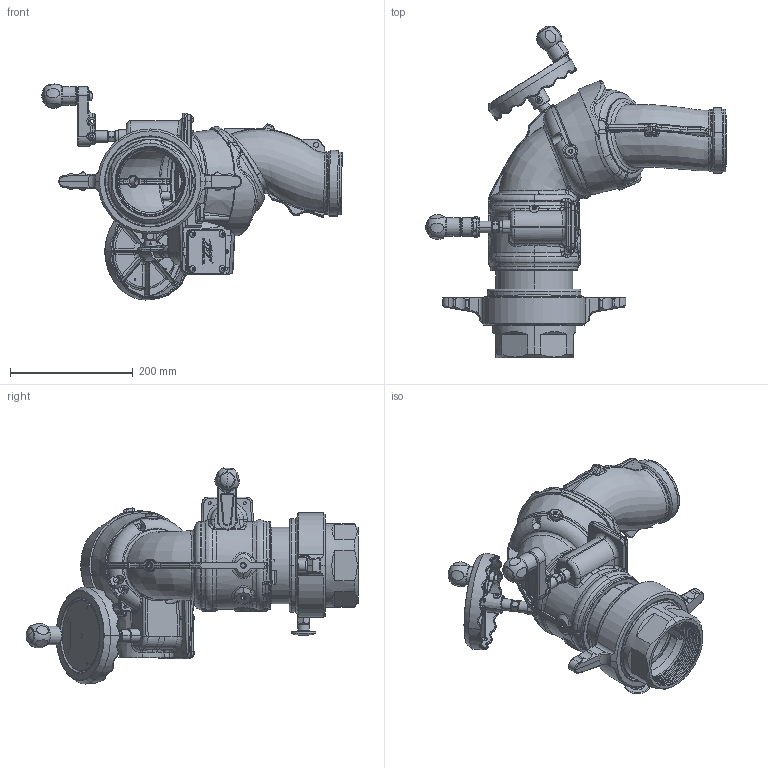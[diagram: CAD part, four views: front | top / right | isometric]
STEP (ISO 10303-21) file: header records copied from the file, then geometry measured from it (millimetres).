
FILE_DESCRIPTION (( 'STEP AP203' ), '1' );
FILE_NAME ('Y4-MS1A_Horizontal.STEP', '2014-07-03T18:01:16', ( '' ), ( '' ), 'SwSTEP 2.0', 'SolidWorks 2014', '' );
FILE_SCHEMA (( 'CONFIG_CONTROL_DESIGN' ));
Length unit declared in the file: inch
Products named in the file (1): Y4-MS1A_Horizontal
Bounding box: 490.2 x 541.57 x 352.41 mm (x, y, z)
Surface area: 731574.8 mm2 (no closed solid volume)
Topology: 0 solids, 87 shells, 2182 faces, 7166 edges, 4884 vertices
Faces by surface type: bspline 633, plane 535, cylinder 471, cone 264, torus 252, sphere 27
Entity records: 143348 total; most frequent: CARTESIAN_POINT 87947, ORIENTED_EDGE 11738, DIRECTION 9951, EDGE_CURVE 7140, VERTEX_POINT 4880, AXIS2_PLACEMENT_3D 3819, EDGE_LOOP 2389, VECTOR 2313
